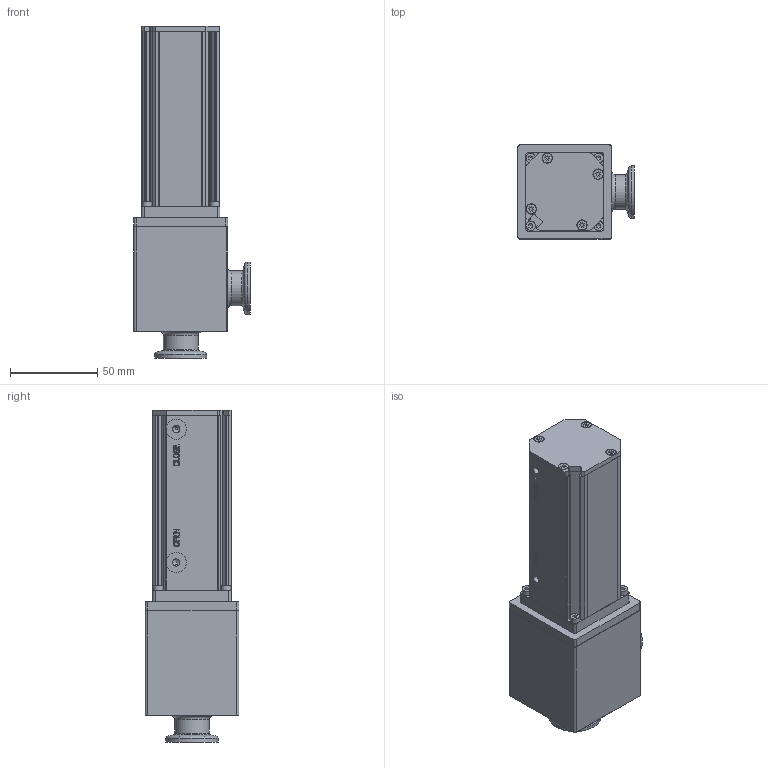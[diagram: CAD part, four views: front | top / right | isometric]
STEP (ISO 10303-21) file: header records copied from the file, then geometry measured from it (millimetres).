
FILE_DESCRIPTION(/* description */ (''),/* implementation_level */ '2;1');
FILE_NAME(/* name */ '1326814966_203.stp',/* time_stamp */ '2013-07-16T12:45:18+02:00',/* author */ (''),/* organization */ (''),/* preprocessor_version */ 'ST-DEVELOPER v11',/* originating_system */ 'SIEMENS PLM Software NX 7.5',/* authorisation */ '');
FILE_SCHEMA (('AP203_CONFIGURATION_CONTROLLED_3D_DESIGN_OF_MECHANICAL_PARTS_AND_ASSEMBLIES_MIM_LF'));
Length unit declared in the file: millimetre
Products named in the file (8): 320416.1; 406780; 408520; n-6013-433.1; 430597; 442705; 517817; 487350
Assembly tree (13 placements, depth 2):
  487350
    517817
    442705
    430597
    n-6013-433.1  x4
    408520
    406780
    320416.1  x4
Bounding box: 67 x 54 x 190.75 mm (x, y, z)
Volume: 197208.5 mm3; surface area: 90705.1 mm2
Topology: 21 solids, 21 shells, 567 faces, 1430 edges, 934 vertices
Faces by surface type: plane 312, cylinder 159, cone 63, extrusion 20, torus 13
Full cylindrical faces by diameter (mm): 1 x2, 1.5 x2, 2.46 x4, 2.5 x16, 3 x12, 3.2 x4, 3.3 x8, 3.5 x4, 4.2 x2, 5.5 x4, 5.6 x4, 5.7 x4, 11.5 x2, 16 x2, 17.3 x2, 17.5 x1, 20 x2, 24.8 x1, 29.935 x2, 30.6 x1, 33 x1, 35 x1, 37.1 x1, 37.45 x1, 40.18 x2, 40.2 x1, 44.37 x1, 47.5 x1, 48.25 x1, 48.525 x1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
Entity records: 15175 total; most frequent: CARTESIAN_POINT 3572, DIRECTION 2082, ORIENTED_EDGE 2004, EDGE_CURVE 1002, AXIS2_PLACEMENT_3D 787, VERTEX_POINT 727, EDGE_LOOP 657, VECTOR 508
